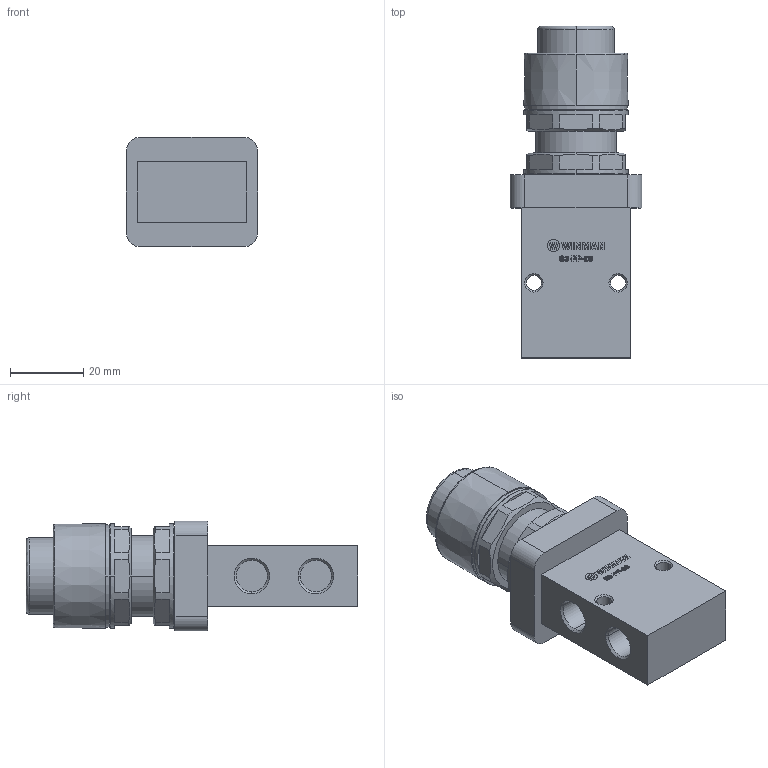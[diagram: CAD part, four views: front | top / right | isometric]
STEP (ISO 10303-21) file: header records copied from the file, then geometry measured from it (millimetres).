
FILE_DESCRIPTION (( 'STEP AP214' ), '1' );
FILE_NAME ('S3-PP-06 (3D).STEP', '2018-12-20T10:10:45', ( 'Hidtek' ), ( '' ), 'SwSTEP 2.0', 'SolidWorks 2016', '' );
FILE_SCHEMA (( 'AUTOMOTIVE_DESIGN' ));
Length unit declared in the file: millimetre
Products named in the file (6): S3-B-06; _PP-B Type Button; S3-PP; _PP Type Base; _Fix nut; S3-PP-06 (3D)
Assembly tree (6 placements, depth 3):
  S3-PP-06 (3D)
    S3-B-06
    S3-PP
      _PP Type Base
      _Fix nut  x2
      _PP-B Type Button
Bounding box: 36 x 90.7 x 30 mm (x, y, z)
Volume: 50780.9 mm3; surface area: 17813.7 mm2
Topology: 5 solids, 5 shells, 351 faces, 889 edges, 577 vertices
Faces by surface type: plane 189, bspline 74, cylinder 44, cone 42, torus 2
Entity records: 15538 total; most frequent: CARTESIAN_POINT 5890, ORIENTED_EDGE 1606, DIRECTION 1297, EDGE_CURVE 803, VERTEX_POINT 525, VECTOR 513, LINE 513, AXIS2_PLACEMENT_3D 392
